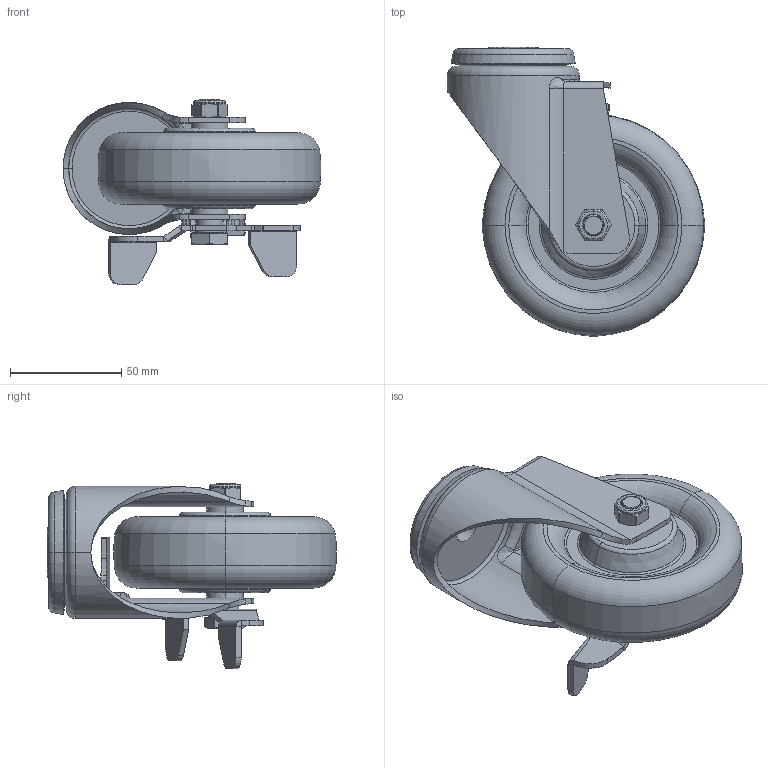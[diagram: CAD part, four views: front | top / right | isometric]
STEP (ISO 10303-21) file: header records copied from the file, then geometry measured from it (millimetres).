
FILE_DESCRIPTION((''),'2;1');
FILE_NAME('50184C-504-86_ASM','2020-01-07T',('L'),(''),'PRO/ENGINEER BY PARAMETRIC TECHNOLOGY CORPORATION, 2010280','PRO/ENGINEER BY PARAMETRIC TECHNOLOGY CORPORATION, 2010280','');
FILE_SCHEMA(('CONFIG_CONTROL_DESIGN'));
Length unit declared in the file: millimetre
Products named in the file (7): 50184C; 504-986; 502-33; 570-34; 503-15; 500-14; 50184C-504-86_ASM
Assembly tree (6 placements, depth 2):
  50184C-504-86_ASM
    50184C
    504-986
    502-33
    570-34
    503-15
    500-14
Bounding box: 115.63 x 129.68 x 83.14 mm (x, y, z)
Volume: 272952.1 mm3; surface area: 67511.2 mm2
Topology: 6 solids, 6 shells, 413 faces, 982 edges, 596 vertices
Faces by surface type: cylinder 146, plane 138, bspline 50, torus 42, cone 37
Entity records: 20440 total; most frequent: CARTESIAN_POINT 11102, ORIENTED_EDGE 1964, DIRECTION 1829, EDGE_CURVE 982, AXIS2_PLACEMENT_3D 696, VERTEX_POINT 596, EDGE_LOOP 442, VECTOR 437
